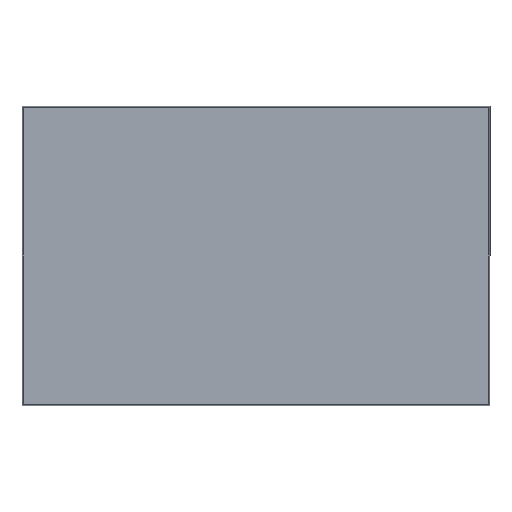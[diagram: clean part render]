
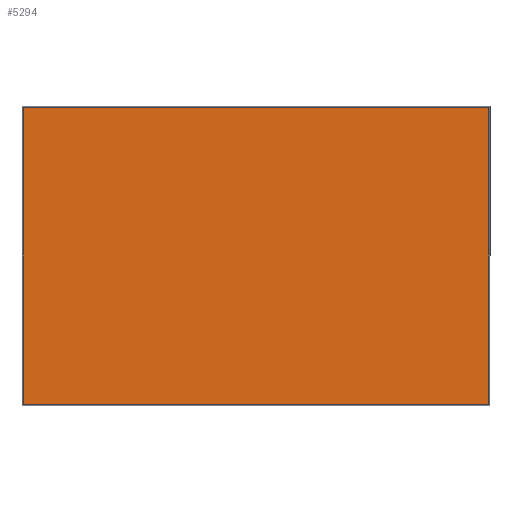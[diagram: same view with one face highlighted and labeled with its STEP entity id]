
A CAD part, front view. The second image highlights one B-rep face of the part: STEP entity #5294.
In plain terms, the highlighted planar face has unit normal (0, -1, 0).
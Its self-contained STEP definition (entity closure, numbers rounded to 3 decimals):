
#1588 = DIRECTION ( 'NONE',  ( 0., 0., 1. ) ) ;
#1589 = DIRECTION ( 'NONE',  ( 0., 1., 0. ) ) ;
#1590 = CARTESIAN_POINT ( 'NONE',  ( -15.875, -10.2, 10.15 ) ) ;
#1591 = AXIS2_PLACEMENT_3D ( 'NONE', #1590, #1589, #1588 ) ;
#1592 = PLANE ( 'NONE',  #1591 ) ;
#1595 = FACE_OUTER_BOUND ( 'NONE', #5295, .T. ) ;
#1596 = DIRECTION ( 'NONE',  ( 1., 0., 0. ) ) ;
#1597 = VECTOR ( 'NONE', #1596, 1000. ) ;
#1598 = CARTESIAN_POINT ( 'NONE',  ( -15.875, -10.2, 10.061 ) ) ;
#1599 = LINE ( 'NONE', #1598, #1597 ) ;
#1620 = LINE ( 'NONE', #1656, #1655 ) ;
#1642 = CARTESIAN_POINT ( 'NONE',  ( 15.786, -10.2, 10.061 ) ) ;
#1654 = DIRECTION ( 'NONE',  ( -1., 0., 0. ) ) ;
#1655 = VECTOR ( 'NONE', #1654, 1000. ) ;
#1656 = CARTESIAN_POINT ( 'NONE',  ( -15.875, -10.2, -10.061 ) ) ;
#1705 = CARTESIAN_POINT ( 'NONE',  ( -15.786, -10.2, -10.061 ) ) ;
#1736 = CARTESIAN_POINT ( 'NONE',  ( -15.786, -10.2, 10.061 ) ) ;
#1737 = DIRECTION ( 'NONE',  ( 0., 0., 1. ) ) ;
#1738 = VECTOR ( 'NONE', #1737, 1000. ) ;
#1739 = CARTESIAN_POINT ( 'NONE',  ( -15.786, -10.2, 10.15 ) ) ;
#1740 = LINE ( 'NONE', #1739, #1738 ) ;
#1745 = DIRECTION ( 'NONE',  ( 0., 0., -1. ) ) ;
#1746 = VECTOR ( 'NONE', #1745, 1000. ) ;
#1747 = CARTESIAN_POINT ( 'NONE',  ( 15.786, -10.2, 10.15 ) ) ;
#1748 = LINE ( 'NONE', #1747, #1746 ) ;
#5292 = EDGE_CURVE ( 'NONE', #5368, #5316, #1599, .T. ) ;
#5294 = ADVANCED_FACE ( 'NONE', ( #1595 ), #1592, .F. ) ;
#5295 = EDGE_LOOP ( 'NONE', ( #5356, #5357, #5331, #5332 ) ) ;
#5309 = EDGE_CURVE ( 'NONE', #5378, #5323, #1620, .T. ) ;
#5316 = VERTEX_POINT ( 'NONE', #1642 ) ;
#5323 = VERTEX_POINT ( 'NONE', #1705 ) ;
#5331 = ORIENTED_EDGE ( 'NONE', *, *, #5363, .F. ) ;
#5332 = ORIENTED_EDGE ( 'NONE', *, *, #5292, .F. ) ;
#5356 = ORIENTED_EDGE ( 'NONE', *, *, #5367, .F. ) ;
#5357 = ORIENTED_EDGE ( 'NONE', *, *, #5309, .F. ) ;
#5363 = EDGE_CURVE ( 'NONE', #5316, #5378, #1748, .T. ) ;
#5367 = EDGE_CURVE ( 'NONE', #5323, #5368, #1740, .T. ) ;
#5368 = VERTEX_POINT ( 'NONE', #1736 ) ;
#5378 = VERTEX_POINT ( 'NONE', #12104 ) ;
#12104 = CARTESIAN_POINT ( 'NONE',  ( 15.786, -10.2, -10.061 ) ) ;
